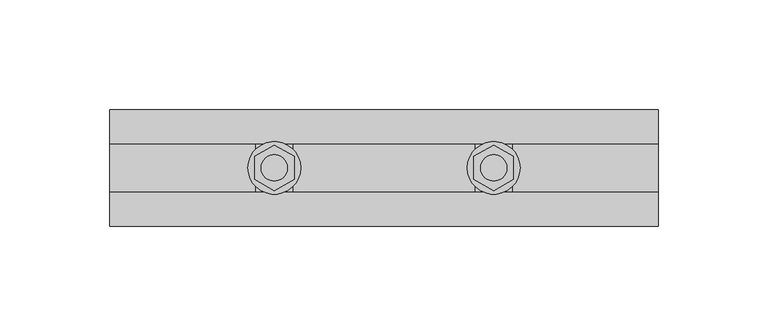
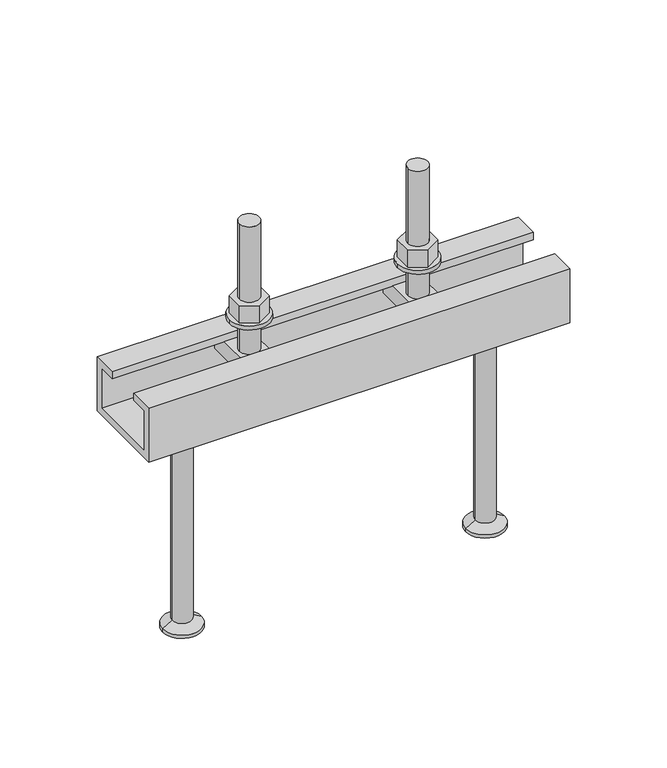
"""IFC4 building model written with IfcOpenShell, lengths in millimetres: fastener geometry, JTA-K JORDAHL® AnchorChannels : JTA-K L=250 mm."""

from ifc_helpers import new_model, si_unit, point, frame, frame_2d, origin, place, context, project, spatial, polyline, circle_curve, trimmed, segment, composite_curve, outline, extrude, source, transform, mapped, element, save
from ifc_brep_helpers import plane_surface, cylinder_surface, revolved_surface, advanced_brep


def fastener_f6363f88(model_context):
    return source(origin(), model_context, "Body", "SolidModel", [
        extrude(outline(polyline([(175.0, -10.3923048), (166.0, -5.1961524), (166.0, 5.1961524), (175.0, 10.3923048), (184.0, 5.1961524), (184.0, -5.1961524), (175.0, -10.3923048)]), holes=[composite_curve([segment(trimmed(circle_curve(frame_2d((175.0, 0.0)), 6.0), [point((169.0, 0.0))], [point((181.0, 0.0))], True, "CARTESIAN"), True, "CONTINUOUS"), segment(trimmed(circle_curve(frame_2d((175.0, 0.0)), 6.0), [point((181.0, 0.0))], [point((169.0, 0.0))], True, "CARTESIAN"), True, "CONTINUOUS")], self_intersect=False)]), frame((0.0, 0.0, 17.5), z_axis=(0.0, 0.0, 1.0), x_axis=(1.0, 0.0, 0.0)), (0.0, 0.0, 1.0), 10.8),
        extrude(outline(composite_curve([segment(trimmed(circle_curve(frame_2d((175.0, 0.0)), 12.0), [point((163.0, 0.0))], [point((187.0, 0.0))], False, "CARTESIAN"), True, "CONTINUOUS"), segment(trimmed(circle_curve(frame_2d((175.0, 0.0)), 12.0), [point((187.0, 0.0))], [point((163.0, 0.0))], False, "CARTESIAN"), True, "CONTINUOUS")], self_intersect=False), holes=[composite_curve([segment(trimmed(circle_curve(frame_2d((175.0, 0.0)), 6.5), [point((168.5, 0.0))], [point((181.5, 0.0))], True, "CARTESIAN"), True, "CONTINUOUS"), segment(trimmed(circle_curve(frame_2d((175.0, 0.0)), 6.5), [point((181.5, 0.0))], [point((168.5, 0.0))], True, "CARTESIAN"), True, "CONTINUOUS")], self_intersect=False)]), frame((0.0, 0.0, 15.0), z_axis=(0.0, 0.0, 1.0), x_axis=(1.0, 0.0, 0.0)), (0.0, 0.0, 1.0), 2.5),
        extrude(outline(polyline([(75.0, -10.3923048), (66.0, -5.1961524), (66.0, 5.1961524), (75.0, 10.3923048), (84.0, 5.1961524), (84.0, -5.1961524), (75.0, -10.3923048)]), holes=[composite_curve([segment(trimmed(circle_curve(frame_2d((75.0, 0.0)), 6.0), [point((69.0, 0.0))], [point((81.0, 0.0))], True, "CARTESIAN"), True, "CONTINUOUS"), segment(trimmed(circle_curve(frame_2d((75.0, 0.0)), 6.0), [point((81.0, 0.0))], [point((69.0, 0.0))], True, "CARTESIAN"), True, "CONTINUOUS")], self_intersect=False)]), frame((0.0, 0.0, 17.5), z_axis=(0.0, 0.0, 1.0), x_axis=(1.0, 0.0, 0.0)), (0.0, 0.0, 1.0), 10.8),
        extrude(outline(composite_curve([segment(trimmed(circle_curve(frame_2d((75.0, 0.0)), 12.0), [point((63.0, 0.0))], [point((87.0, 0.0))], False, "CARTESIAN"), True, "CONTINUOUS"), segment(trimmed(circle_curve(frame_2d((75.0, 0.0)), 12.0), [point((87.0, 0.0))], [point((63.0, 0.0))], False, "CARTESIAN"), True, "CONTINUOUS")], self_intersect=False), holes=[composite_curve([segment(trimmed(circle_curve(frame_2d((75.0, 0.0)), 6.5), [point((68.5, 0.0))], [point((81.5, 0.0))], True, "CARTESIAN"), True, "CONTINUOUS"), segment(trimmed(circle_curve(frame_2d((75.0, 0.0)), 6.5), [point((81.5, 0.0))], [point((68.5, 0.0))], True, "CARTESIAN"), True, "CONTINUOUS")], self_intersect=False)]), frame((0.0, 0.0, 15.0), z_axis=(0.0, 0.0, 1.0), x_axis=(1.0, 0.0, 0.0)), (0.0, 0.0, 1.0), 2.5),
        advanced_brep(
        [(183.5, -20.7, -4.5), (183.5, -20.7, -14.5), (183.5, 20.7, -14.5), (183.5, 20.7, -4.5), (166.5, -20.7, -4.5), (166.5, 20.7, -4.5), (166.5, 20.7, -14.5), (166.5, -20.7, -14.5), (181.0, 0.0, -4.5), (169.0, 0.0, -4.5), (169.0, 0.0, 75.5), (181.0, 0.0, 75.5)],
        [
            (0, 1),
            (1, 2),
            (2, 3),
            (3, 0),
            (4, 5),
            (5, 6),
            (6, 7),
            (7, 4),
            (3, 5),
            (4, 0),
            (8, 9, circle_curve(frame((175.0, 0.0, -4.5), z_axis=(0.0, 0.0, -1.0), x_axis=(1.0, 0.0, 0.0)), 6.0)),
            (9, 8, circle_curve(frame((175.0, 0.0, -4.5), z_axis=(0.0, 0.0, -1.0), x_axis=(1.0, 0.0, 0.0)), 6.0)),
            (2, 6),
            (1, 7),
            (10, 11, circle_curve(frame((175.0, 0.0, 75.5), z_axis=(0.0, 0.0, 1.0), x_axis=(1.0, 0.0, 0.0)), 6.0)),
            (11, 10, circle_curve(frame((175.0, 0.0, 75.5), z_axis=(0.0, 0.0, 1.0), x_axis=(1.0, 0.0, 0.0)), 6.0)),
            (11, 8),
            (9, 10),
        ],
        [
            plane_surface(frame((183.5, 20.7, -4.5), z_axis=(1.0, 0.0, 0.0), x_axis=(0.0, 1.0, 0.0))),
            plane_surface(frame((166.5, 20.7, -4.5), z_axis=(-1.0, 0.0, 0.0), x_axis=(0.0, -1.0, 0.0))),
            plane_surface(frame((183.5, -20.7, -4.5), z_axis=(0.0, 0.0, 1.0), x_axis=(-1.0, 0.0, 0.0))),
            plane_surface(frame((183.5, 20.7, -4.5), z_axis=(0.0, 1.0, 0.0), x_axis=(-1.0, 0.0, 0.0))),
            plane_surface(frame((183.5, 20.7, -14.5), z_axis=(0.0, 0.0, -1.0), x_axis=(-1.0, 0.0, 0.0))),
            plane_surface(frame((183.5, -20.7, -14.5), z_axis=(0.0, -1.0, 0.0), x_axis=(-1.0, 0.0, 0.0))),
            plane_surface(frame((181.0, 0.0, 75.5), z_axis=(0.0, 0.0, 1.0), x_axis=(0.0, -1.0, 0.0))),
            cylinder_surface(frame((175.0, 0.0, -4.5), z_axis=(0.0, 0.0, 1.0), x_axis=(1.0, 0.0, 0.0)), 6.0),
        ],
        [
            (0, [[1, 2, 3, 4]]),
            (1, [[5, 6, 7, 8]]),
            (2, [[9, -5, 10, -4], [11, 12]]),
            (3, [[13, -6, -9, -3]]),
            (4, [[14, -7, -13, -2]]),
            (5, [[-10, -8, -14, -1]]),
            (6, [[15, 16]]),
            (7, [[17, -12, 18, -16]]),
            (7, [[-18, -11, -17, -15]]),
        ],
    ),
        advanced_brep(
        [(83.5, -20.7, -4.5), (83.5, -20.7, -14.5), (83.5, 20.7, -14.5), (83.5, 20.7, -4.5), (66.5, -20.7, -4.5), (66.5, 20.7, -4.5), (66.5, 20.7, -14.5), (66.5, -20.7, -14.5), (81.0, 0.0, -4.5), (69.0, 0.0, -4.5), (69.0, 0.0, 75.5), (81.0, 0.0, 75.5)],
        [
            (0, 1),
            (1, 2),
            (2, 3),
            (3, 0),
            (4, 5),
            (5, 6),
            (6, 7),
            (7, 4),
            (3, 5),
            (4, 0),
            (8, 9, circle_curve(frame((75.0, 0.0, -4.5), z_axis=(0.0, 0.0, -1.0), x_axis=(1.0, 0.0, 0.0)), 6.0)),
            (9, 8, circle_curve(frame((75.0, 0.0, -4.5), z_axis=(0.0, 0.0, -1.0), x_axis=(1.0, 0.0, 0.0)), 6.0)),
            (2, 6),
            (1, 7),
            (10, 11, circle_curve(frame((75.0, 0.0, 75.5), z_axis=(0.0, 0.0, 1.0), x_axis=(1.0, 0.0, 0.0)), 6.0)),
            (11, 10, circle_curve(frame((75.0, 0.0, 75.5), z_axis=(0.0, 0.0, 1.0), x_axis=(1.0, 0.0, 0.0)), 6.0)),
            (11, 8),
            (9, 10),
        ],
        [
            plane_surface(frame((83.5, 20.7, -4.5), z_axis=(1.0, 0.0, 0.0), x_axis=(0.0, 1.0, 0.0))),
            plane_surface(frame((66.5, 20.7, -4.5), z_axis=(-1.0, 0.0, 0.0), x_axis=(0.0, -1.0, 0.0))),
            plane_surface(frame((83.5, -20.7, -4.5), z_axis=(0.0, 0.0, 1.0), x_axis=(-1.0, 0.0, 0.0))),
            plane_surface(frame((83.5, 20.7, -4.5), z_axis=(0.0, 1.0, 0.0), x_axis=(-1.0, 0.0, 0.0))),
            plane_surface(frame((83.5, 20.7, -14.5), z_axis=(0.0, 0.0, -1.0), x_axis=(-1.0, 0.0, 0.0))),
            plane_surface(frame((83.5, -20.7, -14.5), z_axis=(0.0, -1.0, 0.0), x_axis=(-1.0, 0.0, 0.0))),
            plane_surface(frame((81.0, 0.0, 75.5), z_axis=(0.0, 0.0, 1.0), x_axis=(0.0, -1.0, 0.0))),
            cylinder_surface(frame((75.0, 0.0, -4.5), z_axis=(0.0, 0.0, 1.0), x_axis=(1.0, 0.0, 0.0)), 6.0),
        ],
        [
            (0, [[1, 2, 3, 4]]),
            (1, [[5, 6, 7, 8]]),
            (2, [[9, -5, 10, -4], [11, 12]]),
            (3, [[13, -6, -9, -3]]),
            (4, [[14, -7, -13, -2]]),
            (5, [[-10, -8, -14, -1]]),
            (6, [[15, 16]]),
            (7, [[17, -12, 18, -16]]),
            (7, [[-18, -11, -17, -15]]),
        ],
    ),
        advanced_brep(
        [(215.0, 0.0, -34.0), (197.5, 0.0, -34.0), (232.5, 0.0, -34.0), (203.5, 0.0, -165.0), (215.0, 0.0, -165.0), (226.5, 0.0, -165.0), (203.5, 0.0, -163.0), (226.5, 0.0, -163.0), (209.2, 0.0, -159.7091035), (220.8, 0.0, -159.7091035), (209.2, 0.0, -37.0), (220.8, 0.0, -37.0)],
        [
            (0, 1),
            (1, 2, circle_curve(frame((215.0, 0.0, -34.0), z_axis=(0.0, 0.0, 1.0), x_axis=(1.0, 0.0, 0.0)), 17.5)),
            (2, 0),
            (2, 1, circle_curve(frame((215.0, 0.0, -34.0), z_axis=(0.0, 0.0, 1.0), x_axis=(1.0, 0.0, 0.0)), 17.5)),
            (3, 4),
            (4, 5),
            (5, 3, circle_curve(frame((215.0, 0.0, -165.0), z_axis=(0.0, 0.0, -1.0), x_axis=(1.0, 0.0, 0.0)), 11.5)),
            (3, 5, circle_curve(frame((215.0, 0.0, -165.0), z_axis=(0.0, 0.0, -1.0), x_axis=(1.0, 0.0, 0.0)), 11.5)),
            (6, 3),
            (5, 7),
            (7, 6, circle_curve(frame((215.0, 0.0, -163.0), z_axis=(0.0, 0.0, -1.0), x_axis=(1.0, 0.0, 0.0)), 11.5)),
            (6, 7, circle_curve(frame((215.0, 0.0, -163.0), z_axis=(0.0, 0.0, -1.0), x_axis=(1.0, 0.0, 0.0)), 11.5)),
            (8, 6),
            (7, 9),
            (9, 8, circle_curve(frame((215.0, 0.0, -159.7091035), z_axis=(0.0, 0.0, -1.0), x_axis=(1.0, 0.0, 0.0)), 5.8)),
            (8, 9, circle_curve(frame((215.0, 0.0, -159.7091035), z_axis=(0.0, 0.0, -1.0), x_axis=(1.0, 0.0, 0.0)), 5.8)),
            (10, 8),
            (9, 11),
            (11, 10, circle_curve(frame((215.0, 0.0, -37.0), z_axis=(0.0, 0.0, -1.0), x_axis=(1.0, 0.0, 0.0)), 5.8)),
            (10, 11, circle_curve(frame((215.0, 0.0, -37.0), z_axis=(0.0, 0.0, -1.0), x_axis=(1.0, 0.0, 0.0)), 5.8)),
            (1, 10),
            (11, 2),
        ],
        [
            plane_surface(frame((215.0, 0.0, -34.0), z_axis=(0.0, 0.0, 1.0), x_axis=(1.0, 0.0, 0.0))),
            plane_surface(frame((215.0, 0.0, -165.0), z_axis=(0.0, 0.0, -1.0), x_axis=(1.0, 0.0, 0.0))),
            cylinder_surface(frame((215.0, 0.0, 2345.3150031), z_axis=(0.0, 0.0, 1.0), x_axis=(1.0, 0.0, 0.0)), 11.5),
            revolved_surface(polyline([(226.5, 0.0, -163.0), (220.8, 0.0, -159.7091035)]), (215.0, 0.0, 2345.3150031), (0.0, 0.0, 1.0)),
            cylinder_surface(frame((215.0, 0.0, 2345.3150031), z_axis=(0.0, 0.0, 1.0), x_axis=(1.0, 0.0, 0.0)), 5.8),
            revolved_surface(polyline([(220.8, 0.0, -37.0), (232.5, 0.0, -34.0)]), (215.0, 0.0, 2345.3150031), (0.0, 0.0, 1.0)),
        ],
        [
            (0, [[1, 2, 3]]),
            (0, [[-3, 4, -1]]),
            (1, [[5, 6, 7]]),
            (1, [[-6, -5, 8]]),
            (2, [[9, -7, 10, 11]]),
            (2, [[-10, -8, -9, 12]]),
            (3, [[13, -11, 14, 15]]),
            (3, [[-14, -12, -13, 16]]),
            (4, [[17, -15, 18, 19]]),
            (4, [[-18, -16, -17, 20]]),
            (5, [[21, -19, 22, -2]]),
            (5, [[-22, -20, -21, -4]]),
        ],
    ),
        advanced_brep(
        [(35.0, 0.0, -34.0), (17.5, 0.0, -34.0), (52.5, 0.0, -34.0), (23.5, 0.0, -165.0), (35.0, 0.0, -165.0), (46.5, 0.0, -165.0), (23.5, 0.0, -163.0), (46.5, 0.0, -163.0), (29.2, 0.0, -159.7091035), (40.8, 0.0, -159.7091035), (29.2, 0.0, -37.0), (40.8, 0.0, -37.0)],
        [
            (0, 1),
            (1, 2, circle_curve(frame((35.0, 0.0, -34.0), z_axis=(0.0, 0.0, 1.0), x_axis=(1.0, 0.0, 0.0)), 17.5)),
            (2, 0),
            (2, 1, circle_curve(frame((35.0, 0.0, -34.0), z_axis=(0.0, 0.0, 1.0), x_axis=(1.0, 0.0, 0.0)), 17.5)),
            (3, 4),
            (4, 5),
            (5, 3, circle_curve(frame((35.0, 0.0, -165.0), z_axis=(0.0, 0.0, -1.0), x_axis=(1.0, 0.0, 0.0)), 11.5)),
            (3, 5, circle_curve(frame((35.0, 0.0, -165.0), z_axis=(0.0, 0.0, -1.0), x_axis=(1.0, 0.0, 0.0)), 11.5)),
            (6, 3),
            (5, 7),
            (7, 6, circle_curve(frame((35.0, 0.0, -163.0), z_axis=(0.0, 0.0, -1.0), x_axis=(1.0, 0.0, 0.0)), 11.5)),
            (6, 7, circle_curve(frame((35.0, 0.0, -163.0), z_axis=(0.0, 0.0, -1.0), x_axis=(1.0, 0.0, 0.0)), 11.5)),
            (8, 6),
            (7, 9),
            (9, 8, circle_curve(frame((35.0, 0.0, -159.7091035), z_axis=(0.0, 0.0, -1.0), x_axis=(1.0, 0.0, 0.0)), 5.8)),
            (8, 9, circle_curve(frame((35.0, 0.0, -159.7091035), z_axis=(0.0, 0.0, -1.0), x_axis=(1.0, 0.0, 0.0)), 5.8)),
            (10, 8),
            (9, 11),
            (11, 10, circle_curve(frame((35.0, 0.0, -37.0), z_axis=(0.0, 0.0, -1.0), x_axis=(1.0, 0.0, 0.0)), 5.8)),
            (10, 11, circle_curve(frame((35.0, 0.0, -37.0), z_axis=(0.0, 0.0, -1.0), x_axis=(1.0, 0.0, 0.0)), 5.8)),
            (1, 10),
            (11, 2),
        ],
        [
            plane_surface(frame((35.0, 0.0, -34.0), z_axis=(0.0, 0.0, 1.0), x_axis=(1.0, 0.0, 0.0))),
            plane_surface(frame((35.0, 0.0, -165.0), z_axis=(0.0, 0.0, -1.0), x_axis=(1.0, 0.0, 0.0))),
            cylinder_surface(frame((35.0, 0.0, 2345.3150031), z_axis=(0.0, 0.0, 1.0), x_axis=(1.0, 0.0, 0.0)), 11.5),
            revolved_surface(polyline([(46.5, 0.0, -163.0), (40.8, 0.0, -159.7091035)]), (35.0, 0.0, 2345.3150031), (0.0, 0.0, 1.0)),
            cylinder_surface(frame((35.0, 0.0, 2345.3150031), z_axis=(0.0, 0.0, 1.0), x_axis=(1.0, 0.0, 0.0)), 5.8),
            revolved_surface(polyline([(40.8, 0.0, -37.0), (52.5, 0.0, -34.0)]), (35.0, 0.0, 2345.3150031), (0.0, 0.0, 1.0)),
        ],
        [
            (0, [[1, 2, 3]]),
            (0, [[-3, 4, -1]]),
            (1, [[5, 6, 7]]),
            (1, [[-6, -5, 8]]),
            (2, [[9, -7, 10, 11]]),
            (2, [[-10, -8, -9, 12]]),
            (3, [[13, -11, 14, 15]]),
            (3, [[-14, -12, -13, 16]]),
            (4, [[17, -15, 18, 19]]),
            (4, [[-18, -16, -17, 20]]),
            (5, [[21, -19, 22, -2]]),
            (5, [[-22, -20, -21, -4]]),
        ],
    ),
        extrude(outline(polyline([(-26.5, 0.0), (-11.0, 0.0), (-11.0, -4.5), (-22.0, -4.5), (-22.0, -29.5), (22.0, -29.5), (22.0, -4.5), (11.0, -4.5), (11.0, 0.0), (26.5, 0.0), (26.5, -34.0), (-26.5, -34.0), (-26.5, 0.0)])), frame((0.0, 0.0, 0.0), z_axis=(1.0, 0.0, 0.0), x_axis=(0.0, 1.0, 0.0)), (0.0, 0.0, 1.0), 250.0),
    ])


if __name__ == "__main__":
    model = new_model("IFC4")
    model_context = context("Model", 3, world=origin())
    ifc_project = project(units=[si_unit("LENGTHUNIT", "METRE", prefix="MILLI")], contexts=[model_context])
    site = spatial("IfcSite", under=ifc_project)
    building = spatial("IfcBuilding", under=site)
    placement = place(None, origin())
    fastener_shape = fastener_f6363f88(model_context)
    element("IfcFastener", 1, ObjectType="JTA-K JORDAHL® AnchorChannels : JTA-K L=250 mm", at=placement, inside=building, context=model_context, shape_type="MappedRepresentation", body=[
        mapped(fastener_shape, transform((0.0, 0.0, 0.0), x_axis=(1.0, 0.0, 0.0), y_axis=(0.0, 1.0, 0.0), z_axis=(0.0, 0.0, 1.0))),
    ])
    save(model, "model.ifc")
